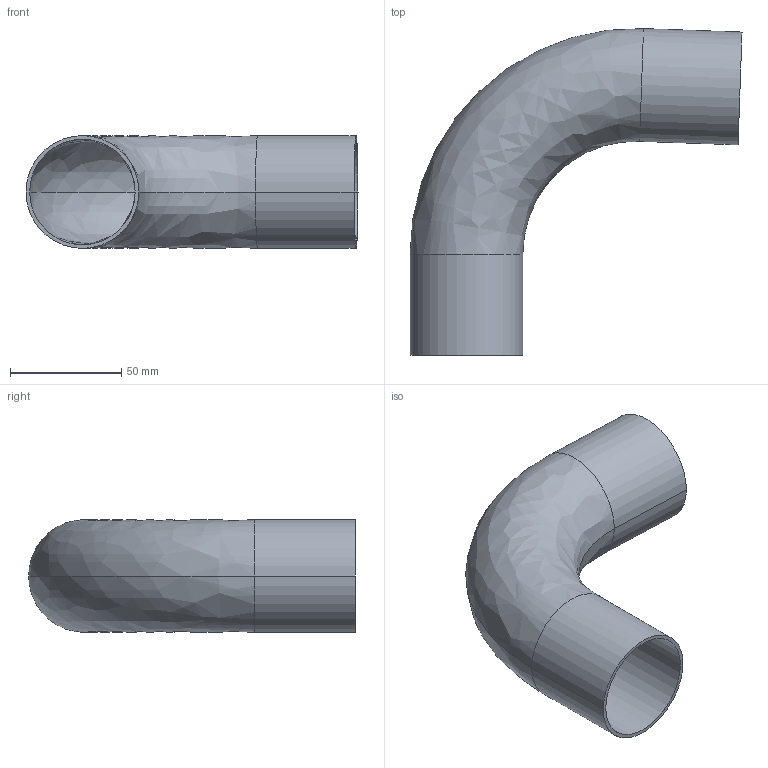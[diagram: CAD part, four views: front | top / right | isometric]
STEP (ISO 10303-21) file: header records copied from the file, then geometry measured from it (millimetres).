
FILE_DESCRIPTION (( 'STEP AP214' ), '1' );
FILE_NAME ('TE2S926L2.0-...STEP', '2016-05-22T11:27:08', ( 'eran' ), ( '' ), 'SwSTEP 2.0', 'SolidWorks 2016', '' );
FILE_SCHEMA (( 'AUTOMOTIVE_DESIGN' ));
Length unit declared in the file: millimetre
Products named in the file (1): TE2S926L2.0-..
Bounding box: 149.48 x 147.07 x 50.8 mm (x, y, z)
Volume: 54075.2 mm3; surface area: 66055.2 mm2
Topology: 1 solids, 1 shells, 14 faces, 28 edges, 16 vertices
Faces by surface type: cylinder 8, bspline 4, plane 2
Entity records: 450 total; most frequent: CARTESIAN_POINT 119, DIRECTION 70, ORIENTED_EDGE 56, AXIS2_PLACEMENT_3D 31, EDGE_CURVE 28, CIRCLE 20, EDGE_LOOP 16, VERTEX_POINT 16
